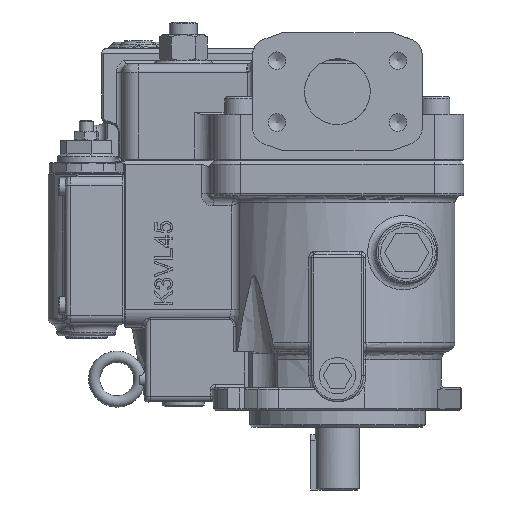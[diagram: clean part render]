
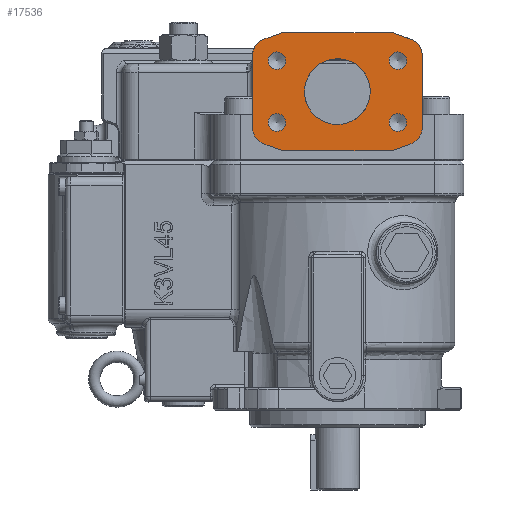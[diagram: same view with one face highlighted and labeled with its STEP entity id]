
A CAD part, left-side view. The second image highlights one B-rep face of the part: STEP entity #17536.
In plain terms, the highlighted planar face has unit normal (-1, 0, 0).
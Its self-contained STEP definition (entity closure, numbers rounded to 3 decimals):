
#12809=CARTESIAN_POINT('',(-80.,42.42,223.907));
#12810=VERTEX_POINT('',#12809);
#12817=CARTESIAN_POINT('',(-80.,32.828,227.398));
#12818=VERTEX_POINT('',#12817);
#12819=CARTESIAN_POINT('',(-80.,32.828,227.398));
#12820=DIRECTION('',(0.0,0.94,-0.342));
#12821=VECTOR('',#12820,10.207);
#12822=LINE('',#12819,#12821);
#12823=EDGE_CURVE('',#12818,#12810,#12822,.T.);
#12856=CARTESIAN_POINT('',(-80.,49.,214.51));
#12857=VERTEX_POINT('',#12856);
#12864=CARTESIAN_POINT('',(-80.,39.,214.51));
#12865=DIRECTION('',(-1.0,0.,0.));
#12866=DIRECTION('',(0.,0.342,0.94));
#12867=AXIS2_PLACEMENT_3D('',#12864,#12865,#12866);
#12868=CIRCLE('',#12867,10.0);
#12869=EDGE_CURVE('',#12810,#12857,#12868,.T.);
#13106=CARTESIAN_POINT('',(-80.,49.,172.89));
#13107=VERTEX_POINT('',#13106);
#13114=CARTESIAN_POINT('',(-80.,49.,214.51));
#13115=DIRECTION('',(0.0,0.0,-1.0));
#13116=VECTOR('',#13115,41.621);
#13117=LINE('',#13114,#13116);
#13118=EDGE_CURVE('',#12857,#13107,#13117,.T.);
#16052=CARTESIAN_POINT('',(-80.,-49.,214.51));
#16053=VERTEX_POINT('',#16052);
#16060=CARTESIAN_POINT('',(-80.,-49.,172.89));
#16061=VERTEX_POINT('',#16060);
#16062=CARTESIAN_POINT('',(-80.,-49.,172.89));
#16063=DIRECTION('',(0.0,0.0,1.0));
#16064=VECTOR('',#16063,41.621);
#16065=LINE('',#16062,#16064);
#16066=EDGE_CURVE('',#16061,#16053,#16065,.T.);
#16090=CARTESIAN_POINT('',(-80.,-42.42,223.907));
#16091=VERTEX_POINT('',#16090);
#16098=CARTESIAN_POINT('',(-80.,-39.,214.51));
#16099=DIRECTION('',(-1.0,0.0,0.0));
#16100=DIRECTION('',(0.0,-1.0,0.0));
#16101=AXIS2_PLACEMENT_3D('',#16098,#16099,#16100);
#16102=CIRCLE('',#16101,10.);
#16103=EDGE_CURVE('',#16053,#16091,#16102,.T.);
#16924=CARTESIAN_POINT('',(-80.,-32.828,227.398));
#16925=VERTEX_POINT('',#16924);
#16932=CARTESIAN_POINT('',(-80.,-42.42,223.907));
#16933=DIRECTION('',(0.0,0.94,0.342));
#16934=VECTOR('',#16933,10.207);
#16935=LINE('',#16932,#16934);
#16936=EDGE_CURVE('',#16091,#16925,#16935,.T.);
#17025=CARTESIAN_POINT('',(-80.,-34.9,216.603));
#17026=VERTEX_POINT('',#17025);
#17027=CARTESIAN_POINT('',(-80.,-34.9,211.55));
#17028=DIRECTION('',(1.0,0.0,0.0));
#17029=DIRECTION('',(0.0,0.0,1.0));
#17030=AXIS2_PLACEMENT_3D('',#17027,#17028,#17029);
#17031=CIRCLE('',#17030,5.053);
#17032=EDGE_CURVE('',#17026,#17026,#17031,.T.);
#17062=CARTESIAN_POINT('',(-80.,34.9,180.903));
#17063=VERTEX_POINT('',#17062);
#17064=CARTESIAN_POINT('',(-80.,34.9,175.85));
#17065=DIRECTION('',(1.0,0.0,0.0));
#17066=DIRECTION('',(0.0,0.0,1.0));
#17067=AXIS2_PLACEMENT_3D('',#17064,#17065,#17066);
#17068=CIRCLE('',#17067,5.053);
#17069=EDGE_CURVE('',#17063,#17063,#17068,.T.);
#17099=CARTESIAN_POINT('',(-80.,34.9,216.603));
#17100=VERTEX_POINT('',#17099);
#17101=CARTESIAN_POINT('',(-80.,34.9,211.55));
#17102=DIRECTION('',(1.0,0.0,0.0));
#17103=DIRECTION('',(0.0,0.0,1.0));
#17104=AXIS2_PLACEMENT_3D('',#17101,#17102,#17103);
#17105=CIRCLE('',#17104,5.053);
#17106=EDGE_CURVE('',#17100,#17100,#17105,.T.);
#17136=CARTESIAN_POINT('',(-80.,-34.9,180.903));
#17137=VERTEX_POINT('',#17136);
#17138=CARTESIAN_POINT('',(-80.,-34.9,175.85));
#17139=DIRECTION('',(1.0,0.0,0.0));
#17140=DIRECTION('',(0.0,0.0,1.0));
#17141=AXIS2_PLACEMENT_3D('',#17138,#17139,#17140);
#17142=CIRCLE('',#17141,5.053);
#17143=EDGE_CURVE('',#17137,#17137,#17142,.T.);
#17212=CARTESIAN_POINT('',(-80.,0.,212.7));
#17213=VERTEX_POINT('',#17212);
#17214=CARTESIAN_POINT('',(-80.,0.,193.7));
#17215=DIRECTION('',(1.0,0.0,0.0));
#17216=DIRECTION('',(0.0,0.0,-1.0));
#17217=AXIS2_PLACEMENT_3D('',#17214,#17215,#17216);
#17218=CIRCLE('',#17217,19.0);
#17219=EDGE_CURVE('',#17213,#17213,#17218,.T.);
#17272=CARTESIAN_POINT('',(-80.,-42.42,163.493));
#17273=VERTEX_POINT('',#17272);
#17280=CARTESIAN_POINT('',(-80.,-32.828,160.002));
#17281=VERTEX_POINT('',#17280);
#17282=CARTESIAN_POINT('',(-80.,-32.828,160.002));
#17283=DIRECTION('',(0.0,-0.94,0.342));
#17284=VECTOR('',#17283,10.207);
#17285=LINE('',#17282,#17284);
#17286=EDGE_CURVE('',#17281,#17273,#17285,.T.);
#17304=CARTESIAN_POINT('',(-80.,-39.,172.89));
#17305=DIRECTION('',(-1.0,0.,0.));
#17306=DIRECTION('',(0.,-0.342,-0.94));
#17307=AXIS2_PLACEMENT_3D('',#17304,#17305,#17306);
#17308=CIRCLE('',#17307,10.);
#17309=EDGE_CURVE('',#17273,#16061,#17308,.T.);
#17321=CARTESIAN_POINT('',(-80.,-31.118,227.7));
#17322=VERTEX_POINT('',#17321);
#17329=CARTESIAN_POINT('',(-80.,-31.118,222.7));
#17330=DIRECTION('',(-1.0,0.,0.));
#17331=DIRECTION('',(0.,-0.342,0.94));
#17332=AXIS2_PLACEMENT_3D('',#17329,#17330,#17331);
#17333=CIRCLE('',#17332,5.0);
#17334=EDGE_CURVE('',#16925,#17322,#17333,.T.);
#17346=CARTESIAN_POINT('',(-80.,31.118,227.7));
#17347=VERTEX_POINT('',#17346);
#17354=CARTESIAN_POINT('',(-80.,-31.118,227.7));
#17355=DIRECTION('',(0.0,1.0,0.0));
#17356=VECTOR('',#17355,62.237);
#17357=LINE('',#17354,#17356);
#17358=EDGE_CURVE('',#17322,#17347,#17357,.T.);
#17371=CARTESIAN_POINT('',(-80.,31.118,222.7));
#17372=DIRECTION('',(-1.0,0.0,0.0));
#17373=DIRECTION('',(0.0,0.0,1.0));
#17374=AXIS2_PLACEMENT_3D('',#17371,#17372,#17373);
#17375=CIRCLE('',#17374,5.0);
#17376=EDGE_CURVE('',#17347,#12818,#17375,.T.);
#17388=CARTESIAN_POINT('',(-80.,42.42,163.493));
#17389=VERTEX_POINT('',#17388);
#17396=CARTESIAN_POINT('',(-80.,39.,172.89));
#17397=DIRECTION('',(-1.0,0.0,0.0));
#17398=DIRECTION('',(0.0,1.0,0.0));
#17399=AXIS2_PLACEMENT_3D('',#17396,#17397,#17398);
#17400=CIRCLE('',#17399,10.0);
#17401=EDGE_CURVE('',#13107,#17389,#17400,.T.);
#17413=CARTESIAN_POINT('',(-80.,32.828,160.002));
#17414=VERTEX_POINT('',#17413);
#17421=CARTESIAN_POINT('',(-80.,42.42,163.493));
#17422=DIRECTION('',(0.0,-0.94,-0.342));
#17423=VECTOR('',#17422,10.207);
#17424=LINE('',#17421,#17423);
#17425=EDGE_CURVE('',#17389,#17414,#17424,.T.);
#17437=CARTESIAN_POINT('',(-80.,31.118,159.7));
#17438=VERTEX_POINT('',#17437);
#17445=CARTESIAN_POINT('',(-80.,31.118,164.7));
#17446=DIRECTION('',(-1.0,0.,0.));
#17447=DIRECTION('',(0.,0.342,-0.94));
#17448=AXIS2_PLACEMENT_3D('',#17445,#17446,#17447);
#17449=CIRCLE('',#17448,5.0);
#17450=EDGE_CURVE('',#17414,#17438,#17449,.T.);
#17462=CARTESIAN_POINT('',(-80.,-31.118,159.7));
#17463=VERTEX_POINT('',#17462);
#17470=CARTESIAN_POINT('',(-80.,31.118,159.7));
#17471=DIRECTION('',(0.0,-1.0,0.0));
#17472=VECTOR('',#17471,62.237);
#17473=LINE('',#17470,#17472);
#17474=EDGE_CURVE('',#17438,#17463,#17473,.T.);
#17487=CARTESIAN_POINT('',(-80.,-31.118,164.7));
#17488=DIRECTION('',(-1.0,0.0,0.0));
#17489=DIRECTION('',(0.0,0.0,-1.0));
#17490=AXIS2_PLACEMENT_3D('',#17487,#17488,#17489);
#17491=CIRCLE('',#17490,5.0);
#17492=EDGE_CURVE('',#17463,#17281,#17491,.T.);
#17498=CARTESIAN_POINT('',(-80.,0.,193.7));
#17499=DIRECTION('',(1.0,0.0,0.0));
#17500=DIRECTION('',(0.0,0.0,-1.0));
#17501=AXIS2_PLACEMENT_3D('',#17498,#17499,#17500);
#17502=PLANE('',#17501);
#17503=ORIENTED_EDGE('',*,*,#17401,.T.);
#17504=ORIENTED_EDGE('',*,*,#17425,.T.);
#17505=ORIENTED_EDGE('',*,*,#17450,.T.);
#17506=ORIENTED_EDGE('',*,*,#17474,.T.);
#17507=ORIENTED_EDGE('',*,*,#17492,.T.);
#17508=ORIENTED_EDGE('',*,*,#17286,.T.);
#17509=ORIENTED_EDGE('',*,*,#17309,.T.);
#17510=ORIENTED_EDGE('',*,*,#16066,.T.);
#17511=ORIENTED_EDGE('',*,*,#16103,.T.);
#17512=ORIENTED_EDGE('',*,*,#16936,.T.);
#17513=ORIENTED_EDGE('',*,*,#17334,.T.);
#17514=ORIENTED_EDGE('',*,*,#17358,.T.);
#17515=ORIENTED_EDGE('',*,*,#17376,.T.);
#17516=ORIENTED_EDGE('',*,*,#12823,.T.);
#17517=ORIENTED_EDGE('',*,*,#12869,.T.);
#17518=ORIENTED_EDGE('',*,*,#13118,.T.);
#17519=EDGE_LOOP('',(#17503,#17504,#17505,#17506,#17507,#17508,#17509,#17510,#17511,#17512,#17513,#17514,#17515,#17516,#17517,#17518));
#17520=FACE_OUTER_BOUND('',#17519,.T.);
#17521=ORIENTED_EDGE('',*,*,#17032,.T.);
#17522=EDGE_LOOP('',(#17521));
#17523=FACE_BOUND('',#17522,.T.);
#17524=ORIENTED_EDGE('',*,*,#17069,.T.);
#17525=EDGE_LOOP('',(#17524));
#17526=FACE_BOUND('',#17525,.T.);
#17527=ORIENTED_EDGE('',*,*,#17106,.T.);
#17528=EDGE_LOOP('',(#17527));
#17529=FACE_BOUND('',#17528,.T.);
#17530=ORIENTED_EDGE('',*,*,#17143,.T.);
#17531=EDGE_LOOP('',(#17530));
#17532=FACE_BOUND('',#17531,.T.);
#17533=ORIENTED_EDGE('',*,*,#17219,.T.);
#17534=EDGE_LOOP('',(#17533));
#17535=FACE_BOUND('',#17534,.T.);
#17536=ADVANCED_FACE('',(#17520,#17523,#17526,#17529,#17532,#17535),#17502,.F.);
